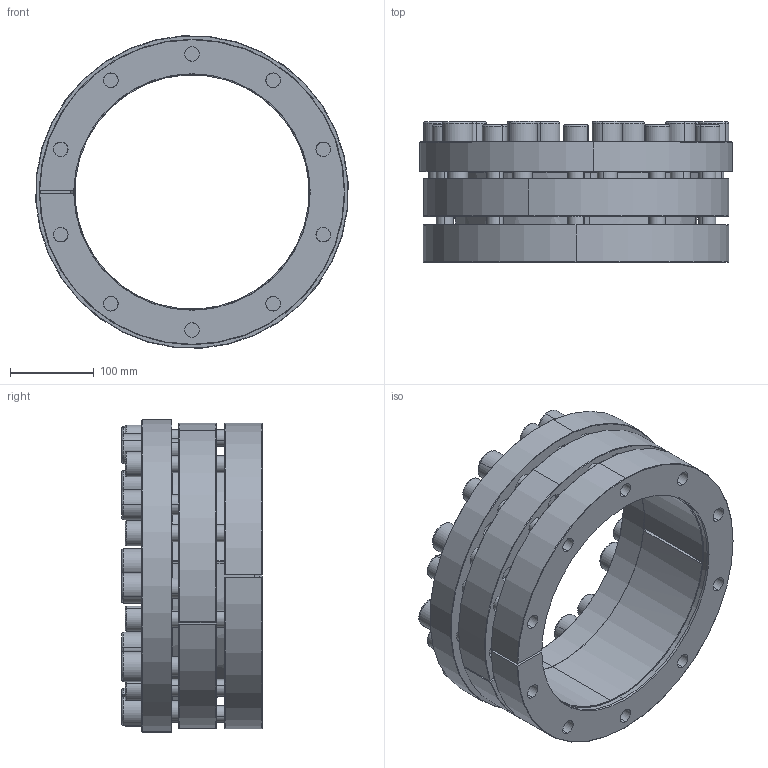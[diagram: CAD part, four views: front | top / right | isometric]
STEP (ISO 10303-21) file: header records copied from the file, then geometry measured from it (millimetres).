
FILE_DESCRIPTION (( 'STEP AP214' ), '1' );
FILE_NAME ('CONEX-P-280x365-P-008.step', '2015-11-30T21:14:14', ( '' ), ( '' ), 'SwSTEP 2.0', 'SolidWorks 2013', '' );
FILE_SCHEMA (( 'AUTOMOTIVE_DESIGN' ));
Length unit declared in the file: millimetre
Products named in the file (1): CONEX-P-280x365-P-008
Bounding box: 373.3 x 168.01 x 373.3 mm (x, y, z)
Volume: 5953650.2 mm3; surface area: 1025085.3 mm2
Topology: 23 solids, 23 shells, 728 faces, 1679 edges, 998 vertices
Faces by surface type: plane 321, cylinder 209, cone 116, torus 82
Entity records: 28785 total; most frequent: DIRECTION 3857, CARTESIAN_POINT 3488, ORIENTED_EDGE 3278, EDGE_CURVE 1639, AXIS2_PLACEMENT_3D 1517, VERTEX_POINT 998, EDGE_LOOP 879, VECTOR 823
